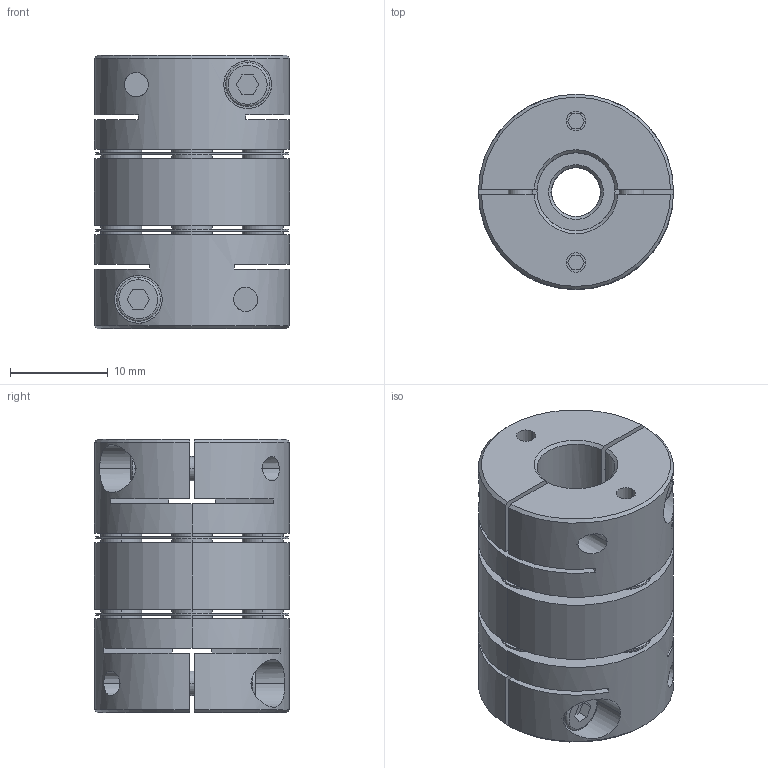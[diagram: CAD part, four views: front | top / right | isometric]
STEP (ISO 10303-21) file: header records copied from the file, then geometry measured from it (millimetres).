
FILE_DESCRIPTION((''),'2;1');
FILE_NAME('LA-20LS-5×8.stp','2015-10-05T09:57:40',(''),(''),'AutoCAD STEP 2000i','AutoCAD 2000i',', , ');
FILE_SCHEMA(('CONFIG_CONTROL_DESIGN'));
Length unit declared in the file: millimetre
Products named in the file (4): LA-20LS-4×8; 忣兜1; HUB-7-1; HUB-4-1
Assembly tree (3 placements, depth 2):
  LA-20LS-4×8
    忣兜1
    HUB-7-1
    HUB-4-1
Bounding box: 20 x 20 x 28 mm (x, y, z)
Volume: 6578.8 mm3; surface area: 6190.9 mm2
Topology: 1 solids, 1 shells, 276 faces, 715 edges, 491 vertices
Faces by surface type: cylinder 128, plane 120, torus 16, cone 12
Entity records: 9101 total; most frequent: CARTESIAN_POINT 1887, DIRECTION 1574, ORIENTED_EDGE 1400, EDGE_CURVE 700, AXIS2_PLACEMENT_3D 611, VERTEX_POINT 464, EDGE_LOOP 356, VECTOR 352
